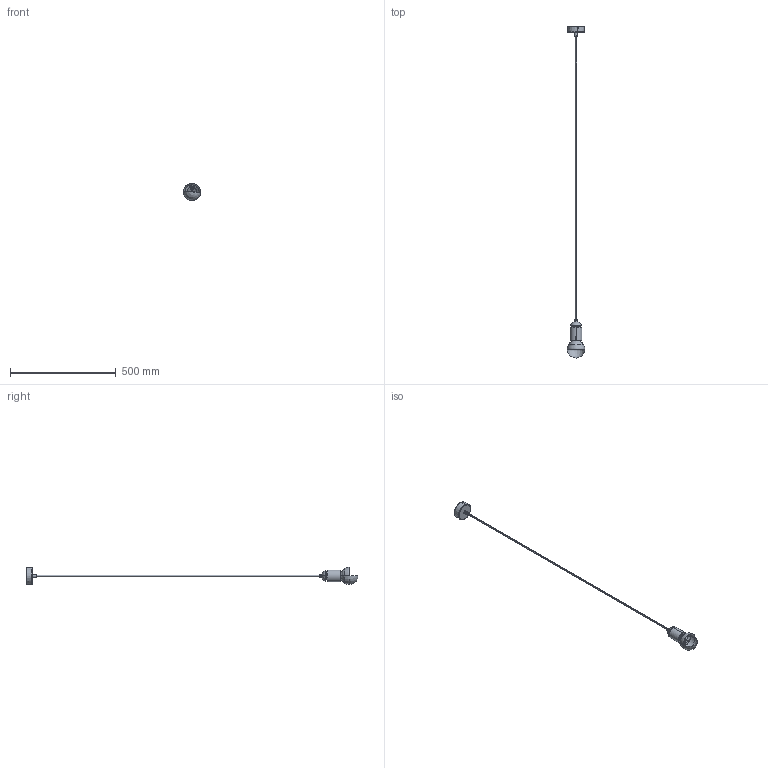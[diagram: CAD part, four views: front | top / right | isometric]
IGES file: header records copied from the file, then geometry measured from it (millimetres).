
Start section: SolidWorks IGES file using analytic representation for surfaces
Global section: file name: E:\_DESIGN\NOWOŒCI\TULUM\TULUM.IGS; native system: SolidWorks 2016; preprocessor: SolidWorks 2016; author: Asia; date: 170414.111723; units: millimetre
Bounding box: 82.5 x 1570.94 x 83.08 mm (x, y, z)
Surface area: 156117.8 mm2 (no closed solid volume)
Topology: 0 solids, 0 shells, 619 faces, 8698 edges, 8697 vertices
Faces by surface type: revolution 319, bspline 300
